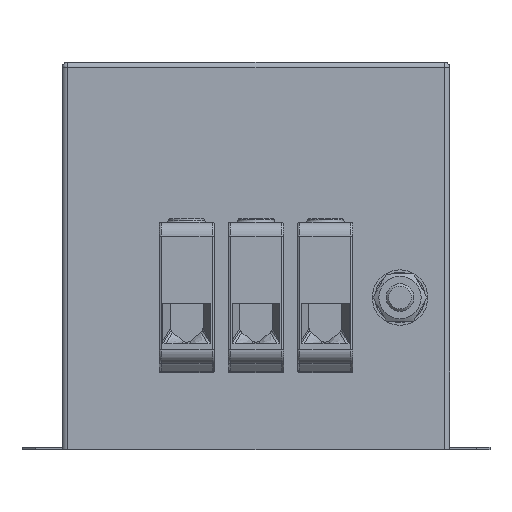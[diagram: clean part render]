
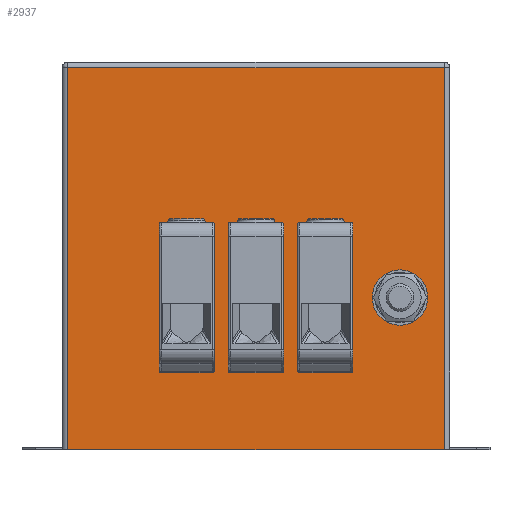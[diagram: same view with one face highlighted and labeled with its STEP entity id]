
A CAD part, left-side view. The second image highlights one B-rep face of the part: STEP entity #2937.
In plain terms, the highlighted planar face has unit normal (-1, 0, 0).
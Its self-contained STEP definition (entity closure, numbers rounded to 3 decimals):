
#121=CARTESIAN_POINT('',(-110.5,-52.,46.75));
#122=VERTEX_POINT('',#121);
#123=CARTESIAN_POINT('',(-110.5,-52.,55.0));
#124=DIRECTION('',(1.0,0.0,0.0));
#125=DIRECTION('',(0.0,0.0,-1.0));
#126=AXIS2_PLACEMENT_3D('',#123,#124,#125);
#127=CIRCLE('',#126,8.25);
#128=EDGE_CURVE('',#122,#122,#127,.T.);
#2010=CARTESIAN_POINT('',(-110.5,10.,28.6));
#2011=VERTEX_POINT('',#2010);
#2012=CARTESIAN_POINT('',(-110.5,-10.,28.6));
#2013=VERTEX_POINT('',#2012);
#2014=CARTESIAN_POINT('',(-110.5,10.,28.6));
#2015=DIRECTION('',(0.0,-1.0,0.0));
#2016=VECTOR('',#2015,20.0);
#2017=LINE('',#2014,#2016);
#2018=EDGE_CURVE('',#2011,#2013,#2017,.T.);
#2062=CARTESIAN_POINT('',(-110.5,-10.,81.4));
#2063=VERTEX_POINT('',#2062);
#2071=CARTESIAN_POINT('',(-110.5,10.,81.4));
#2072=VERTEX_POINT('',#2071);
#2073=CARTESIAN_POINT('',(-110.5,10.,81.4));
#2074=DIRECTION('',(0.0,-1.0,0.0));
#2075=VECTOR('',#2074,20.0);
#2076=LINE('',#2073,#2075);
#2077=EDGE_CURVE('',#2072,#2063,#2076,.T.);
#2670=CARTESIAN_POINT('',(-110.5,10.,28.6));
#2671=DIRECTION('',(0.0,0.0,1.0));
#2672=VECTOR('',#2671,52.8);
#2673=LINE('',#2670,#2672);
#2674=EDGE_CURVE('',#2011,#2072,#2673,.T.);
#2806=CARTESIAN_POINT('',(-110.5,-10.,81.4));
#2807=DIRECTION('',(0.0,0.0,-1.0));
#2808=VECTOR('',#2807,52.8);
#2809=LINE('',#2806,#2808);
#2810=EDGE_CURVE('',#2063,#2013,#2809,.T.);
#2821=CARTESIAN_POINT('',(-110.5,70.,0.0));
#2822=DIRECTION('',(-1.0,0.0,0.0));
#2823=DIRECTION('',(0.0,-1.0,0.0));
#2824=AXIS2_PLACEMENT_3D('',#2821,#2822,#2823);
#2825=PLANE('',#2824);
#2826=CARTESIAN_POINT('',(-110.5,68.,0.0));
#2827=VERTEX_POINT('',#2826);
#2828=CARTESIAN_POINT('',(-110.5,68.,138.0));
#2829=VERTEX_POINT('',#2828);
#2830=CARTESIAN_POINT('',(-110.5,68.,0.0));
#2831=DIRECTION('',(0.0,0.0,1.0));
#2832=VECTOR('',#2831,138.0);
#2833=LINE('',#2830,#2832);
#2834=EDGE_CURVE('',#2827,#2829,#2833,.T.);
#2835=ORIENTED_EDGE('',*,*,#2834,.F.);
#2836=CARTESIAN_POINT('',(-110.5,-68.,0.0));
#2837=VERTEX_POINT('',#2836);
#2838=CARTESIAN_POINT('',(-110.5,-68.,0.0));
#2839=DIRECTION('',(0.0,1.0,0.0));
#2840=VECTOR('',#2839,136.0);
#2841=LINE('',#2838,#2840);
#2842=EDGE_CURVE('',#2837,#2827,#2841,.T.);
#2843=ORIENTED_EDGE('',*,*,#2842,.F.);
#2844=CARTESIAN_POINT('',(-110.5,-68.,138.0));
#2845=VERTEX_POINT('',#2844);
#2846=CARTESIAN_POINT('',(-110.5,-68.,138.0));
#2847=DIRECTION('',(0.0,0.0,-1.0));
#2848=VECTOR('',#2847,138.0);
#2849=LINE('',#2846,#2848);
#2850=EDGE_CURVE('',#2845,#2837,#2849,.T.);
#2851=ORIENTED_EDGE('',*,*,#2850,.F.);
#2852=CARTESIAN_POINT('',(-110.5,68.,138.0));
#2853=DIRECTION('',(0.0,-1.0,0.0));
#2854=VECTOR('',#2853,136.0);
#2855=LINE('',#2852,#2854);
#2856=EDGE_CURVE('',#2829,#2845,#2855,.T.);
#2857=ORIENTED_EDGE('',*,*,#2856,.F.);
#2858=EDGE_LOOP('',(#2835,#2843,#2851,#2857));
#2859=FACE_OUTER_BOUND('',#2858,.T.);
#2860=ORIENTED_EDGE('',*,*,#128,.T.);
#2861=EDGE_LOOP('',(#2860));
#2862=FACE_BOUND('',#2861,.T.);
#2863=CARTESIAN_POINT('',(-110.5,-15.,81.4));
#2864=VERTEX_POINT('',#2863);
#2865=CARTESIAN_POINT('',(-110.5,-35.0,81.4));
#2866=VERTEX_POINT('',#2865);
#2867=CARTESIAN_POINT('',(-110.5,-15.,81.4));
#2868=DIRECTION('',(0.0,-1.0,0.0));
#2869=VECTOR('',#2868,20.);
#2870=LINE('',#2867,#2869);
#2871=EDGE_CURVE('',#2864,#2866,#2870,.T.);
#2872=ORIENTED_EDGE('',*,*,#2871,.T.);
#2873=CARTESIAN_POINT('',(-110.5,-35.,28.6));
#2874=VERTEX_POINT('',#2873);
#2875=CARTESIAN_POINT('',(-110.5,-35.,81.4));
#2876=DIRECTION('',(0.0,0.0,-1.0));
#2877=VECTOR('',#2876,52.8);
#2878=LINE('',#2875,#2877);
#2879=EDGE_CURVE('',#2866,#2874,#2878,.T.);
#2880=ORIENTED_EDGE('',*,*,#2879,.T.);
#2881=CARTESIAN_POINT('',(-110.5,-15.,28.6));
#2882=VERTEX_POINT('',#2881);
#2883=CARTESIAN_POINT('',(-110.5,-15.0,28.6));
#2884=DIRECTION('',(0.0,-1.0,0.0));
#2885=VECTOR('',#2884,20.0);
#2886=LINE('',#2883,#2885);
#2887=EDGE_CURVE('',#2882,#2874,#2886,.T.);
#2888=ORIENTED_EDGE('',*,*,#2887,.F.);
#2889=CARTESIAN_POINT('',(-110.5,-15.,28.6));
#2890=DIRECTION('',(0.0,0.0,1.0));
#2891=VECTOR('',#2890,52.8);
#2892=LINE('',#2889,#2891);
#2893=EDGE_CURVE('',#2882,#2864,#2892,.T.);
#2894=ORIENTED_EDGE('',*,*,#2893,.T.);
#2895=EDGE_LOOP('',(#2872,#2880,#2888,#2894));
#2896=FACE_BOUND('',#2895,.T.);
#2897=ORIENTED_EDGE('',*,*,#2077,.T.);
#2898=ORIENTED_EDGE('',*,*,#2810,.T.);
#2899=ORIENTED_EDGE('',*,*,#2018,.F.);
#2900=ORIENTED_EDGE('',*,*,#2674,.T.);
#2901=EDGE_LOOP('',(#2897,#2898,#2899,#2900));
#2902=FACE_BOUND('',#2901,.T.);
#2903=CARTESIAN_POINT('',(-110.5,35.,81.4));
#2904=VERTEX_POINT('',#2903);
#2905=CARTESIAN_POINT('',(-110.5,15.,81.4));
#2906=VERTEX_POINT('',#2905);
#2907=CARTESIAN_POINT('',(-110.5,35.0,81.4));
#2908=DIRECTION('',(0.0,-1.0,0.0));
#2909=VECTOR('',#2908,20.0);
#2910=LINE('',#2907,#2909);
#2911=EDGE_CURVE('',#2904,#2906,#2910,.T.);
#2912=ORIENTED_EDGE('',*,*,#2911,.T.);
#2913=CARTESIAN_POINT('',(-110.5,15.,28.6));
#2914=VERTEX_POINT('',#2913);
#2915=CARTESIAN_POINT('',(-110.5,15.,81.4));
#2916=DIRECTION('',(0.0,0.0,-1.0));
#2917=VECTOR('',#2916,52.8);
#2918=LINE('',#2915,#2917);
#2919=EDGE_CURVE('',#2906,#2914,#2918,.T.);
#2920=ORIENTED_EDGE('',*,*,#2919,.T.);
#2921=CARTESIAN_POINT('',(-110.5,35.0,28.6));
#2922=VERTEX_POINT('',#2921);
#2923=CARTESIAN_POINT('',(-110.5,35.0,28.6));
#2924=DIRECTION('',(0.0,-1.0,0.0));
#2925=VECTOR('',#2924,20.);
#2926=LINE('',#2923,#2925);
#2927=EDGE_CURVE('',#2922,#2914,#2926,.T.);
#2928=ORIENTED_EDGE('',*,*,#2927,.F.);
#2929=CARTESIAN_POINT('',(-110.5,35.0,28.6));
#2930=DIRECTION('',(0.0,0.0,1.0));
#2931=VECTOR('',#2930,52.8);
#2932=LINE('',#2929,#2931);
#2933=EDGE_CURVE('',#2922,#2904,#2932,.T.);
#2934=ORIENTED_EDGE('',*,*,#2933,.T.);
#2935=EDGE_LOOP('',(#2912,#2920,#2928,#2934));
#2936=FACE_BOUND('',#2935,.T.);
#2937=ADVANCED_FACE('',(#2859,#2862,#2896,#2902,#2936),#2825,.T.);
